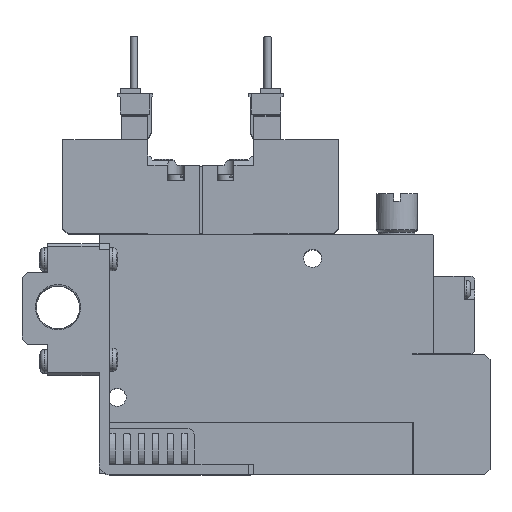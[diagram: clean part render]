
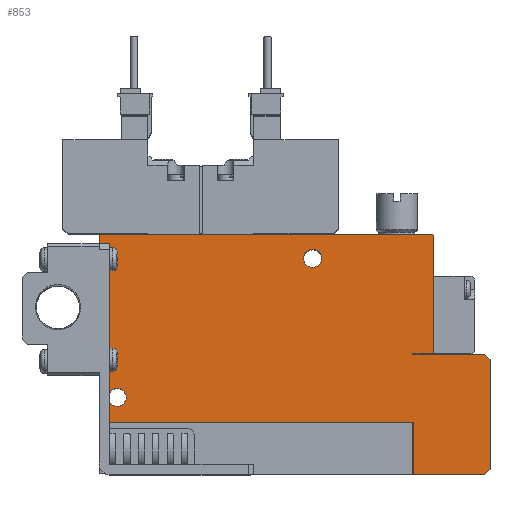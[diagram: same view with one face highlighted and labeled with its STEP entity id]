
A CAD part, top view. The second image highlights one B-rep face of the part: STEP entity #853.
In plain terms, the highlighted planar face has unit normal (0, 0, 1).
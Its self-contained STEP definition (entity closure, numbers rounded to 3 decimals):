
#853=ADVANCED_FACE('',(#1929,#1930,#1931),#1932,.F.);
#1929=FACE_OUTER_BOUND('',#3491,.T.);
#1930=FACE_BOUND('',#3492,.T.);
#1931=FACE_BOUND('',#3493,.T.);
#1932=PLANE('',#3494);
#3491=EDGE_LOOP('',(#7110,#7111,#7112,#7113,#7114,#7115,#7116,#7117,#7118,#7119,#7120,#7121,#7122,#7123));
#3492=EDGE_LOOP('',(#7124));
#3493=EDGE_LOOP('',(#7125));
#3494=AXIS2_PLACEMENT_3D('',#7126,#7127,#7128);
#7110=ORIENTED_EDGE('',*,*,#10705,.T.);
#7111=ORIENTED_EDGE('',*,*,#10706,.F.);
#7112=ORIENTED_EDGE('',*,*,#10655,.F.);
#7113=ORIENTED_EDGE('',*,*,#10707,.T.);
#7114=ORIENTED_EDGE('',*,*,#10689,.T.);
#7115=ORIENTED_EDGE('',*,*,#10556,.T.);
#7116=ORIENTED_EDGE('',*,*,#10577,.T.);
#7117=ORIENTED_EDGE('',*,*,#10580,.T.);
#7118=ORIENTED_EDGE('',*,*,#10708,.T.);
#7119=ORIENTED_EDGE('',*,*,#10693,.T.);
#7120=ORIENTED_EDGE('',*,*,#10709,.T.);
#7121=ORIENTED_EDGE('',*,*,#10540,.T.);
#7122=ORIENTED_EDGE('',*,*,#10648,.T.);
#7123=ORIENTED_EDGE('',*,*,#10710,.T.);
#7124=ORIENTED_EDGE('',*,*,#10616,.F.);
#7125=ORIENTED_EDGE('',*,*,#10711,.F.);
#7126=CARTESIAN_POINT('',(0.0,0.0,5.0));
#7127=DIRECTION('',(0.0,0.0,-1.0));
#7128=DIRECTION('',(0.0,-1.0,0.0));
#10540=EDGE_CURVE('',#12795,#12793,#12796,.T.);
#10556=EDGE_CURVE('',#12823,#12821,#12824,.T.);
#10577=EDGE_CURVE('',#12821,#12858,#12860,.T.);
#10580=EDGE_CURVE('',#12858,#12863,#12865,.T.);
#10616=EDGE_CURVE('',#12926,#12926,#12927,.T.);
#10648=EDGE_CURVE('',#12793,#12977,#12979,.T.);
#10655=EDGE_CURVE('',#12990,#12992,#12993,.T.);
#10689=EDGE_CURVE('',#13049,#12823,#13050,.T.);
#10693=EDGE_CURVE('',#13057,#13055,#13058,.T.);
#10705=EDGE_CURVE('',#13074,#13075,#13076,.T.);
#10706=EDGE_CURVE('',#12992,#13075,#13077,.T.);
#10707=EDGE_CURVE('',#12990,#13049,#13078,.T.);
#10708=EDGE_CURVE('',#12863,#13057,#13079,.T.);
#10709=EDGE_CURVE('',#13055,#12795,#13080,.T.);
#10710=EDGE_CURVE('',#12977,#13074,#13081,.T.);
#10711=EDGE_CURVE('',#13082,#13082,#13083,.T.);
#12793=VERTEX_POINT('',#16519);
#12795=VERTEX_POINT('',#16522);
#12796=LINE('',#16523,#16524);
#12821=VERTEX_POINT('',#16576);
#12823=VERTEX_POINT('',#16579);
#12824=LINE('',#16580,#16581);
#12858=VERTEX_POINT('',#16631);
#12860=LINE('',#16634,#16635);
#12863=VERTEX_POINT('',#16639);
#12865=LINE('',#16642,#16643);
#12926=VERTEX_POINT('',#16764);
#12927=CIRCLE('',#16765,1.75);
#12977=VERTEX_POINT('',#16855);
#12979=LINE('',#16858,#16859);
#12990=VERTEX_POINT('',#16874);
#12992=VERTEX_POINT('',#16877);
#12993=LINE('',#16878,#16879);
#13049=VERTEX_POINT('',#16963);
#13050=LINE('',#16964,#16965);
#13055=VERTEX_POINT('',#16972);
#13057=VERTEX_POINT('',#16975);
#13058=LINE('',#16976,#16977);
#13074=VERTEX_POINT('',#17018);
#13075=VERTEX_POINT('',#17019);
#13076=LINE('',#17020,#17021);
#13077=LINE('',#17022,#17023);
#13078=LINE('',#17024,#17025);
#13079=LINE('',#17026,#17027);
#13080=LINE('',#17028,#17029);
#13081=LINE('',#17030,#17031);
#13082=VERTEX_POINT('',#17032);
#13083=CIRCLE('',#17033,1.75);
#16519=CARTESIAN_POINT('',(64.8,46.6,5.0));
#16522=CARTESIAN_POINT('',(65.0,46.4,5.0));
#16523=CARTESIAN_POINT('',(65.0,46.4,5.0));
#16524=VECTOR('',#20651,1.0);
#16576=CARTESIAN_POINT('',(76.0,22.25,5.0));
#16579=CARTESIAN_POINT('',(76.0,1.0,5.0));
#16580=CARTESIAN_POINT('',(76.0,1.0,5.0));
#16581=VECTOR('',#20673,1.0);
#16631=CARTESIAN_POINT('',(75.0,23.25,5.0));
#16634=CARTESIAN_POINT('',(76.0,22.25,5.0));
#16635=VECTOR('',#20700,1.0);
#16639=CARTESIAN_POINT('',(61.0,23.25,5.0));
#16642=CARTESIAN_POINT('',(75.0,23.25,5.0));
#16643=VECTOR('',#20703,1.0);
#16764=CARTESIAN_POINT('',(5.25,15.0,5.0));
#16765=AXIS2_PLACEMENT_3D('',#20753,#20754,#20755);
#16855=CARTESIAN_POINT('',(0.2,46.6,5.0));
#16858=CARTESIAN_POINT('',(64.8,46.6,5.0));
#16859=VECTOR('',#20799,1.0);
#16874=CARTESIAN_POINT('',(61.1,0.0,5.0));
#16877=CARTESIAN_POINT('',(61.1,10.1,5.0));
#16878=CARTESIAN_POINT('',(61.1,0.0,5.0));
#16879=VECTOR('',#20808,1.0);
#16963=CARTESIAN_POINT('',(75.0,0.0,5.0));
#16964=CARTESIAN_POINT('',(75.0,0.0,5.0));
#16965=VECTOR('',#20852,1.0);
#16972=CARTESIAN_POINT('',(65.0,23.5,5.0));
#16975=CARTESIAN_POINT('',(61.0,23.5,5.0));
#16976=CARTESIAN_POINT('',(61.0,23.5,5.0));
#16977=VECTOR('',#20856,1.0);
#17018=CARTESIAN_POINT('',(0.0,46.4,5.0));
#17019=CARTESIAN_POINT('',(0.0,10.1,5.0));
#17020=CARTESIAN_POINT('',(0.0,46.4,5.0));
#17021=VECTOR('',#20872,1.0);
#17022=CARTESIAN_POINT('',(61.1,10.1,5.0));
#17023=VECTOR('',#20873,1.0);
#17024=CARTESIAN_POINT('',(0.0,0.0,5.0));
#17025=VECTOR('',#20874,1.0);
#17026=CARTESIAN_POINT('',(61.0,23.25,5.0));
#17027=VECTOR('',#20875,1.0);
#17028=CARTESIAN_POINT('',(65.0,23.5,5.0));
#17029=VECTOR('',#20876,1.0);
#17030=CARTESIAN_POINT('',(0.2,46.6,5.0));
#17031=VECTOR('',#20877,1.0);
#17032=CARTESIAN_POINT('',(43.25,42.0,5.0));
#17033=AXIS2_PLACEMENT_3D('',#20878,#20879,#20880);
#20651=DIRECTION('',(-0.707,0.707,0.0));
#20673=DIRECTION('',(0.0,1.0,0.0));
#20700=DIRECTION('',(-0.707,0.707,0.0));
#20703=DIRECTION('',(-1.0,0.0,0.0));
#20753=CARTESIAN_POINT('',(3.5,15.0,5.0));
#20754=DIRECTION('',(0.0,0.0,1.0));
#20755=DIRECTION('',(1.0,0.0,0.0));
#20799=DIRECTION('',(-1.0,0.0,0.0));
#20808=DIRECTION('',(0.0,1.0,0.0));
#20852=DIRECTION('',(0.707,0.707,0.0));
#20856=DIRECTION('',(1.0,0.,0.0));
#20872=DIRECTION('',(0.0,-1.0,0.0));
#20873=DIRECTION('',(-1.0,0.0,0.0));
#20874=DIRECTION('',(1.0,0.0,0.0));
#20875=DIRECTION('',(0.0,1.0,0.0));
#20876=DIRECTION('',(0.0,1.0,0.0));
#20877=DIRECTION('',(-0.707,-0.707,0.0));
#20878=CARTESIAN_POINT('',(41.5,42.0,5.0));
#20879=DIRECTION('',(0.0,0.0,1.0));
#20880=DIRECTION('',(1.0,0.0,0.0));
